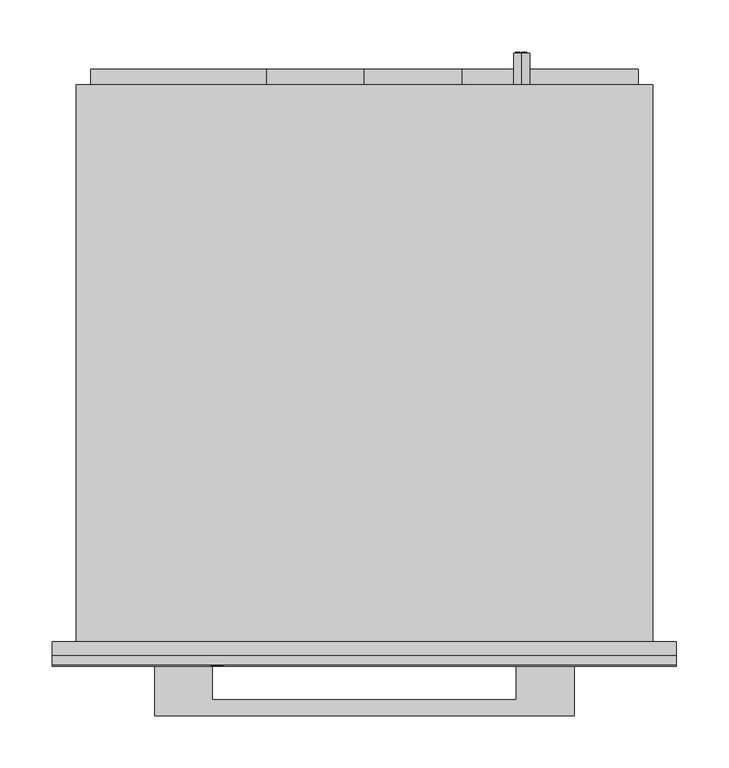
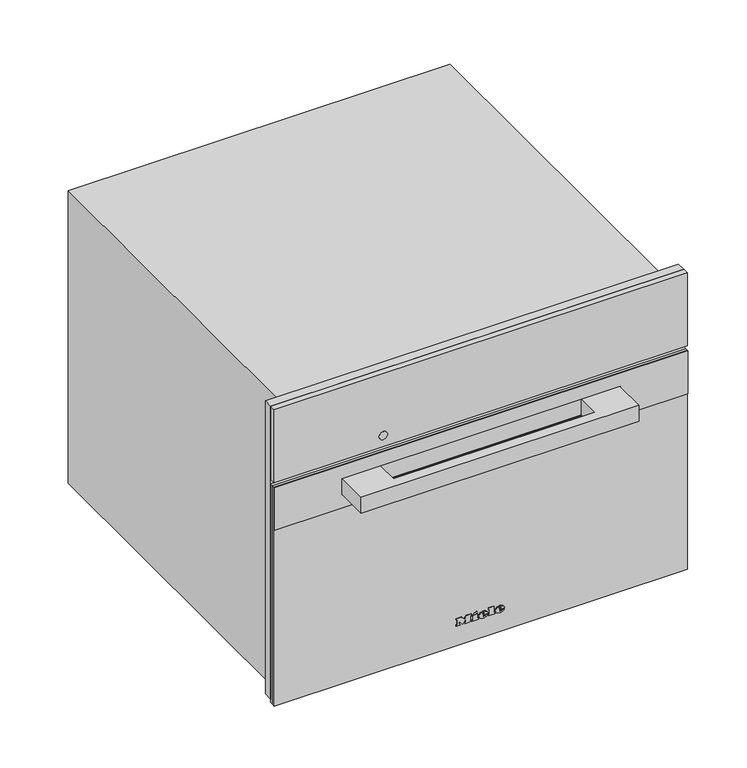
"""IFC4 building model written with IfcOpenShell, lengths in millimetres: proxy geometry, 11100450_F_DG7240_EDST-CLST : 23724040_F_11100450_DG7240_EDST-CLST."""

from ifc_helpers import new_model, si_unit, point, frame, frame_2d, origin, place, context, project, spatial, polyline, circle_curve, ellipse_curve, trimmed, segment, composite_curve, outline, extrude, faceted_brep, source, transform, mapped, element, save
from ifc_brep_helpers import plane_surface, cylinder_surface, revolved_surface, extruded_surface, advanced_brep


def specialty_equipment_9e288480(model_context):
    return source(origin(), model_context, "Body", "SolidModel", [
        extrude(outline(polyline([(455.0, 297.5), (455.0, -297.5), (9.0, -297.5), (9.0, -272.5), (344.0, -272.5), (344.0, 272.5), (9.0, 272.5), (9.0, 297.5), (455.0, 297.5)])), frame((0.0, -13.0, 0.0), z_axis=(0.0, 1.0, 0.0), x_axis=(0.0, 0.0, 1.0)), (0.0, 0.0, 1.0), 13.0),
        advanced_brep(
        [(150.0, 561.0, 410.5), (150.0, 561.0, 395.5), (144.4098301, 561.0, 398.0), (148.5, 561.0, 398.0), (148.5, 561.0, 408.0), (147.4955303, 561.0, 408.0), (147.4955303, 561.0, 399.0), (144.0315043, 561.0, 399.0), (144.0315043, 561.0, 398.4582978), (155.0, 561.0, 398.0), (155.0, 561.0, 408.0), (150.0, 561.0, 408.0), (150.0, 561.0, 407.0), (154.0, 561.0, 407.0), (154.0, 561.0, 403.5), (151.0, 561.0, 403.5), (151.0, 561.0, 402.5), (154.0, 561.0, 402.5), (154.0, 561.0, 399.0), (150.0, 561.0, 399.0), (150.0, 561.0, 398.0), (150.0, 531.0, 395.5), (150.0, 531.0, 410.5), (155.0, 562.0, 408.0), (155.0, 562.0, 398.0), (150.0, 562.0, 398.0), (150.0, 562.0, 399.0), (154.0, 562.0, 399.0), (154.0, 562.0, 402.5), (151.0, 562.0, 402.5), (151.0, 562.0, 403.5), (154.0, 562.0, 403.5), (154.0, 562.0, 407.0), (150.0, 562.0, 407.0), (150.0, 562.0, 408.0), (148.5, 562.0, 398.0), (144.0315043, 562.0, 398.0), (144.0315043, 562.0, 399.0), (147.4955303, 562.0, 399.0), (147.4955303, 562.0, 408.0), (148.5, 562.0, 408.0), (144.0315043, 561.0, 398.0)],
        [
            (0, 1, circle_curve(frame((150.0, 561.0, 403.0), z_axis=(0.0, 1.0, 0.0), x_axis=(0.0, 0.0, 1.0)), 7.5)),
            (1, 2, circle_curve(frame((150.0, 561.0, 403.0), z_axis=(0.0, 1.0, 0.0), x_axis=(0.0, 0.0, 1.0)), 7.5)),
            (2, 3),
            (3, 4),
            (4, 5),
            (5, 6),
            (6, 7),
            (7, 8),
            (8, 0, circle_curve(frame((150.0, 561.0, 403.0), z_axis=(0.0, 1.0, 0.0), x_axis=(0.0, 0.0, 1.0)), 7.5)),
            (9, 10),
            (10, 11),
            (11, 12),
            (12, 13),
            (13, 14),
            (14, 15),
            (15, 16),
            (16, 17),
            (17, 18),
            (18, 19),
            (19, 20),
            (20, 9),
            (21, 22, circle_curve(frame((150.0, 531.0, 403.0), z_axis=(0.0, -1.0, 0.0), x_axis=(0.0, 0.0, 1.0)), 7.5)),
            (22, 21, circle_curve(frame((150.0, 531.0, 403.0), z_axis=(0.0, -1.0, 0.0), x_axis=(0.0, 0.0, 1.0)), 7.5)),
            (0, 22),
            (21, 1),
            (8, 2, circle_curve(frame((150.0, 561.0, 403.0), z_axis=(0.0, -1.0, 0.0), x_axis=(0.0, 0.0, 1.0)), 7.5)),
            (23, 24),
            (24, 25),
            (25, 26),
            (26, 27),
            (27, 28),
            (28, 29),
            (29, 30),
            (30, 31),
            (31, 32),
            (32, 33),
            (33, 34),
            (34, 23),
            (35, 36),
            (36, 37),
            (37, 38),
            (38, 39),
            (39, 40),
            (40, 35),
            (8, 41),
            (41, 2),
            (23, 10),
            (9, 24),
            (20, 25),
            (19, 26),
            (18, 27),
            (17, 28),
            (16, 29),
            (15, 30),
            (14, 31),
            (13, 32),
            (12, 33),
            (11, 34),
            (35, 3),
            (41, 36),
            (7, 37),
            (6, 38),
            (5, 39),
            (4, 40),
        ],
        [
            plane_surface(frame((150.0, 561.0, 410.5), z_axis=(0.0, 1.0, 0.0), x_axis=(1.0, 0.0, 0.0))),
            plane_surface(frame((150.0, 531.0, 410.5), z_axis=(0.0, -1.0, 0.0), x_axis=(-1.0, 0.0, 0.0))),
            cylinder_surface(frame((150.0, 561.0, 403.0), z_axis=(0.0, -1.0, 0.0), x_axis=(0.0, 0.0, 1.0)), 7.5),
            plane_surface(frame((155.0, 562.0, 408.0), z_axis=(0.0, 1.0, 0.0), x_axis=(0.0, 0.0, -1.0))),
            plane_surface(frame((155.0, 561.0, 408.0), z_axis=(0.0, -1.0, 0.0), x_axis=(0.0, 0.0, 1.0))),
            plane_surface(frame((155.0, 562.0, 408.0), z_axis=(1.0, 0.0, 0.0), x_axis=(0.0, -1.0, 0.0))),
            plane_surface(frame((155.0, 562.0, 398.0), z_axis=(0.0, 0.0, -1.0), x_axis=(0.0, -1.0, 0.0))),
            plane_surface(frame((150.0, 562.0, 398.0), z_axis=(-1.0, 0.0, 0.0), x_axis=(0.0, -1.0, 0.0))),
            plane_surface(frame((150.0, 562.0, 399.0), z_axis=(0.0, 0.0, 1.0), x_axis=(0.0, -1.0, 0.0))),
            plane_surface(frame((154.0, 562.0, 399.0), z_axis=(-1.0, 0.0, 0.0), x_axis=(0.0, -1.0, 0.0))),
            plane_surface(frame((154.0, 562.0, 402.5), z_axis=(0.0, 0.0, -1.0), x_axis=(0.0, -1.0, 0.0))),
            plane_surface(frame((151.0, 562.0, 402.5), z_axis=(-1.0, 0.0, 0.0), x_axis=(0.0, -1.0, 0.0))),
            plane_surface(frame((151.0, 562.0, 403.5), z_axis=(0.0, 0.0, 1.0), x_axis=(0.0, -1.0, 0.0))),
            plane_surface(frame((154.0, 562.0, 403.5), z_axis=(-1.0, 0.0, 0.0), x_axis=(0.0, -1.0, 0.0))),
            plane_surface(frame((154.0, 562.0, 407.0), z_axis=(0.0, 0.0, -1.0), x_axis=(0.0, -1.0, 0.0))),
            plane_surface(frame((150.0, 562.0, 407.0), z_axis=(-1.0, 0.0, 0.0), x_axis=(0.0, -1.0, 0.0))),
            plane_surface(frame((150.0, 562.0, 408.0), z_axis=(0.0, 0.0, 1.0), x_axis=(0.0, -1.0, 0.0))),
            plane_surface(frame((148.5, 562.0, 398.0), z_axis=(0.0, 0.0, -1.0), x_axis=(0.0, -1.0, 0.0))),
            plane_surface(frame((144.0315043, 562.0, 398.0), z_axis=(-1.0, 0.0, 0.0), x_axis=(0.0, -1.0, 0.0))),
            plane_surface(frame((144.0315043, 562.0, 399.0), z_axis=(0.0, 0.0, 1.0), x_axis=(0.0, -1.0, 0.0))),
            plane_surface(frame((147.4955303, 562.0, 399.0), z_axis=(-1.0, 0.0, 0.0), x_axis=(0.0, -1.0, 0.0))),
            plane_surface(frame((147.4955303, 562.0, 408.0), z_axis=(0.0, 0.0, 1.0), x_axis=(0.0, -1.0, 0.0))),
            plane_surface(frame((148.5, 562.0, 408.0), z_axis=(1.0, 0.0, 0.0), x_axis=(0.0, -1.0, 0.0))),
        ],
        [
            (0, [[1, 2, 3, 4, 5, 6, 7, 8, 9], [10, 11, 12, 13, 14, 15, 16, 17, 18, 19, 20, 21]]),
            (1, [[22, 23]]),
            (2, [[-1, 24, -22, 25]]),
            (2, [[-23, -24, -9, 26, -2, -25]]),
            (3, [[27, 28, 29, 30, 31, 32, 33, 34, 35, 36, 37, 38]]),
            (3, [[39, 40, 41, 42, 43, 44]]),
            (4, [[45, 46, -26]]),
            (5, [[-27, 47, -10, 48]]),
            (6, [[-28, -48, -21, 49]]),
            (7, [[-29, -49, -20, 50]]),
            (8, [[-30, -50, -19, 51]]),
            (9, [[-31, -51, -18, 52]]),
            (10, [[-32, -52, -17, 53]]),
            (11, [[-33, -53, -16, 54]]),
            (12, [[-34, -54, -15, 55]]),
            (13, [[-35, -55, -14, 56]]),
            (14, [[-36, -56, -13, 57]]),
            (15, [[-37, -57, -12, 58]]),
            (16, [[-38, -58, -11, -47]]),
            (17, [[-39, 59, -3, -46, 60]]),
            (18, [[-40, -60, -45, -8, 61]]),
            (19, [[-41, -61, -7, 62]]),
            (20, [[-42, -62, -6, 63]]),
            (21, [[-43, -63, -5, 64]]),
            (22, [[-44, -64, -4, -59]]),
        ],
    ),
        extrude(outline(polyline([(299.0, -93.0), (258.0, -93.0), (258.0, -261.0), (111.0, -261.0), (111.0, -93.0), (70.0, -93.0), (70.0, 0.0), (70.0, 93.0), (111.0, 93.0), (111.0, 261.0), (258.0, 261.0), (258.0, 93.0), (299.0, 93.0), (299.0, 0.0), (299.0, -93.0)])), frame((0.0, 531.0, 0.0), z_axis=(0.0, 1.0, 0.0), x_axis=(0.0, 0.0, 1.0)), (0.0, 0.0, 1.0), 15.0),
        faceted_brep([(275.0, 531.0, 445.0), (275.0, 531.0, 0.0), (-275.0, 531.0, 0.0), (-275.0, 531.0, 445.0), (275.0, 0.0, 445.0), (-275.0, 0.0, 445.0), (-275.0, 0.0, 0.0), (275.0, 0.0, 0.0), (-272.5, 0.0, 344.0), (272.5, 0.0, 344.0), (272.5, 0.0, 8.0), (-272.5, 0.0, 8.0), (272.5, 34.0, 344.0), (-272.5, 34.0, 344.0), (-272.5, 34.0, 8.0), (272.5, 34.0, 8.0), (161.0, 34.0, 286.0), (161.0, 34.0, 58.0), (-220.0, 34.0, 58.0), (-220.0, 34.0, 286.0), (161.0, 444.0, 286.0), (-220.0, 444.0, 286.0), (-220.0, 444.0, 58.0), (161.0, 444.0, 58.0)], [[[0, 1, 2, 3]], [[4, 5, 6, 7], [8, 9, 10, 11]], [[0, 3, 5, 4]], [[3, 2, 6, 5]], [[2, 1, 7, 6]], [[1, 0, 4, 7]], [[12, 13, 14, 15], [16, 17, 18, 19]], [[13, 12, 9, 8]], [[14, 13, 8, 11]], [[15, 14, 11, 10]], [[12, 15, 10, 9]], [[20, 21, 22, 23]], [[20, 23, 17, 16]], [[23, 22, 18, 17]], [[22, 21, 19, 18]], [[21, 20, 16, 19]]]),
        advanced_brep(
        [(26.2998, -23.0, 36.7018), (26.2998, -23.0, 37.8532), (33.9264, -23.0, 37.8532), (20.6568, -23.0, 37.8532), (23.7918, -23.0, 34.0), (33.7326, -23.0, 36.7018), (30.2898, -23.0, 36.7018), (27.5766, -23.0, 35.425), (26.2998, -23.0, 39.3124), (26.2998, -23.0, 40.555), (28.2492, -23.0, 40.555), (28.2492, -23.0, 39.3124), (26.2998, -22.0, 36.7018), (27.5766, -22.0, 35.425), (30.2898, -22.0, 36.7018), (33.7326, -22.0, 36.7018), (23.7918, -22.0, 34.0), (20.6568, -22.0, 37.8532), (33.9264, -22.0, 37.8532), (26.2998, -22.0, 37.8532), (26.2998, -22.0, 39.3124), (28.2492, -22.0, 39.3124), (28.2492, -22.0, 40.555), (26.2998, -22.0, 40.555)],
        [
            (0, 1),
            (1, 2),
            (2, 3, ellipse_curve(frame((27.2916, -23.0, 37.8532), z_axis=(0.0, -1.0, 0.0), x_axis=(-1.0, 0.0, 0.0)), 6.6348, 5.4834)),
            (3, 4, circle_curve(frame((25.0686622, -23.0, 38.2408), z_axis=(0.0, -1.0, 0.0), x_axis=(0.0, 0.0, -1.0)), 4.4288556)),
            (4, 5, circle_curve(frame((27.1587808, -23.0, 41.2504), z_axis=(0.0, -1.0, 0.0), x_axis=(0.0, 0.0, -1.0)), 7.9940516)),
            (5, 6),
            (6, 7, circle_curve(frame((28.1338588, -23.0, 37.762), z_axis=(0.0, 1.0, 0.0), x_axis=(0.0, 0.0, -1.0)), 2.4025208)),
            (7, 0, circle_curve(frame((27.5766, -23.0, 36.7018), z_axis=(0.0, 1.0, 0.0), x_axis=(0.0, 0.0, -1.0)), 1.2768)),
            (8, 9),
            (9, 10, circle_curve(frame((27.2745, -23.0, 40.555), z_axis=(0.0, 1.0, 0.0), x_axis=(0.0, 0.0, -1.0)), 0.9747)),
            (10, 11),
            (11, 8),
            (12, 13, circle_curve(frame((27.5766, -22.0, 36.7018), z_axis=(0.0, -1.0, 0.0), x_axis=(0.0, 0.0, -1.0)), 1.2768)),
            (13, 14, circle_curve(frame((28.1338588, -22.0, 37.762), z_axis=(0.0, -1.0, 0.0), x_axis=(0.0, 0.0, -1.0)), 2.4025208)),
            (14, 15),
            (15, 16, circle_curve(frame((27.1587808, -22.0, 41.2504), z_axis=(0.0, 1.0, 0.0), x_axis=(0.0, 0.0, -1.0)), 7.9940516)),
            (16, 17, circle_curve(frame((25.0686622, -22.0, 38.2408), z_axis=(0.0, 1.0, 0.0), x_axis=(0.0, 0.0, -1.0)), 4.4288556)),
            (17, 18, ellipse_curve(frame((27.2916, -22.0, 37.8532), z_axis=(0.0, 1.0, 0.0), x_axis=(-1.0, 0.0, 0.0)), 6.6348, 5.4834)),
            (18, 19),
            (19, 12),
            (20, 21),
            (21, 22),
            (22, 23, circle_curve(frame((27.2745, -22.0, 40.555), z_axis=(0.0, -1.0, 0.0), x_axis=(0.0, 0.0, -1.0)), 0.9747)),
            (23, 20),
            (0, 12),
            (19, 1),
            (18, 2),
            (5, 15),
            (14, 6),
            (17, 3),
            (13, 7),
            (16, 4),
            (8, 20),
            (23, 9),
            (22, 10),
            (21, 11),
        ],
        [
            plane_surface(frame((26.2998, -23.0, 37.8532), z_axis=(0.0, -1.0, 0.0), x_axis=(0.0, 0.0, 1.0))),
            plane_surface(frame((26.2998, -22.0, 37.8532), z_axis=(0.0, 1.0, 0.0), x_axis=(0.0, 0.0, -1.0))),
            plane_surface(frame((26.2998, -23.0, 36.7018), z_axis=(1.0, 0.0, 0.0), x_axis=(0.0, 1.0, 0.0))),
            plane_surface(frame((26.2998, -23.0, 37.8532), z_axis=(0.0, 0.0, -1.0), x_axis=(0.0, 1.0, 0.0))),
            plane_surface(frame((33.7326, -23.0, 36.7018), z_axis=(0.0, 0.0, 1.0), x_axis=(0.0, 1.0, 0.0))),
            extruded_surface(trimmed(ellipse_curve(frame((27.2916, -21.0, 37.8532), z_axis=(0.0, -1.0, 0.0), x_axis=(-1.0, 0.0, 0.0)), 6.6348, 5.4834), [point((33.9264, -21.0, 37.8532))], [point((20.6568, -21.0, 37.8532))], True, "CARTESIAN"), (0.0, -1.0, 0.0), 1.0),
            revolved_surface(polyline([(28.1338588, -22.0, 35.3594792), (28.1338588, -23.0, 35.3594792)]), (28.1338588, -22.0, 37.762), (0.0, 1.0, 0.0)),
            revolved_surface(polyline([(27.5766, -22.0, 35.425), (27.5766, -23.0, 35.425)]), (27.5766, -22.0, 36.7018), (0.0, 1.0, 0.0)),
            cylinder_surface(frame((25.0686622, -22.0, 38.2408), z_axis=(0.0, -1.0, 0.0), x_axis=(0.0, 0.0, -1.0)), 4.4288556),
            cylinder_surface(frame((27.1587808, -22.0, 41.2504), z_axis=(0.0, -1.0, 0.0), x_axis=(0.0, 0.0, -1.0)), 7.9940516),
            plane_surface(frame((26.2998, -23.0, 39.3124), z_axis=(1.0, 0.0, 0.0), x_axis=(0.0, 1.0, 0.0))),
            revolved_surface(polyline([(27.2745, -22.0, 39.5803), (27.2745, -23.0, 39.5803)]), (27.2745, -22.0, 40.555), (0.0, 1.0, 0.0)),
            plane_surface(frame((28.2492, -23.0, 40.555), z_axis=(-1.0, 0.0, 0.0), x_axis=(0.0, 1.0, 0.0))),
            plane_surface(frame((28.2492, -23.0, 39.3124), z_axis=(0.0, 0.0, 1.0), x_axis=(0.0, 1.0, 0.0))),
        ],
        [
            (0, [[1, 2, 3, 4, 5, 6, 7, 8], [9, 10, 11, 12]]),
            (1, [[13, 14, 15, 16, 17, 18, 19, 20], [21, 22, 23, 24]]),
            (2, [[-1, 25, -20, 26]]),
            (3, [[-2, -26, -19, 27]]),
            (4, [[-6, 28, -15, 29]]),
            (5, [[-3, -27, -18, 30]]),
            (6, [[-7, -29, -14, 31]]),
            (7, [[-8, -31, -13, -25]]),
            (8, [[-4, -30, -17, 32]]),
            (9, [[-5, -32, -16, -28]]),
            (10, [[-9, 33, -24, 34]]),
            (11, [[-10, -34, -23, 35]]),
            (12, [[-11, -35, -22, 36]]),
            (13, [[-12, -36, -21, -33]]),
        ],
    ),
        advanced_brep(
        [(2.508, -23.0, 36.7018), (2.508, -23.0, 37.8532), (10.1346, -23.0, 37.8532), (-3.135, -23.0, 37.8532), (0.0, -23.0, 34.0), (9.9408, -23.0, 36.7018), (6.498, -23.0, 36.7018), (3.7848, -23.0, 35.425), (2.508, -23.0, 39.3124), (2.508, -23.0, 40.555), (4.4574, -23.0, 40.555), (4.4574, -23.0, 39.3124), (2.508, -22.0, 36.7018), (3.7848, -22.0, 35.425), (6.498, -22.0, 36.7018), (9.9408, -22.0, 36.7018), (0.0, -22.0, 34.0), (-3.135, -22.0, 37.8532), (10.1346, -22.0, 37.8532), (2.508, -22.0, 37.8532), (2.508, -22.0, 39.3124), (4.4574, -22.0, 39.3124), (4.4574, -22.0, 40.555), (2.508, -22.0, 40.555)],
        [
            (0, 1),
            (1, 2),
            (2, 3, ellipse_curve(frame((3.4998, -23.0, 37.8532), z_axis=(0.0, -1.0, 0.0), x_axis=(-1.0, 0.0, 0.0)), 6.6348, 5.4834)),
            (3, 4, circle_curve(frame((1.2768622, -23.0, 38.2408), z_axis=(0.0, -1.0, 0.0), x_axis=(0.0, 0.0, -1.0)), 4.4288556)),
            (4, 5, circle_curve(frame((3.3669808, -23.0, 41.2504), z_axis=(0.0, -1.0, 0.0), x_axis=(0.0, 0.0, -1.0)), 7.9940516)),
            (5, 6),
            (6, 7, circle_curve(frame((4.3420588, -23.0, 37.762), z_axis=(0.0, 1.0, 0.0), x_axis=(0.0, 0.0, -1.0)), 2.4025208)),
            (7, 0, circle_curve(frame((3.7848, -23.0, 36.7018), z_axis=(0.0, 1.0, 0.0), x_axis=(0.0, 0.0, -1.0)), 1.2768)),
            (8, 9),
            (9, 10, circle_curve(frame((3.4827, -23.0, 40.555), z_axis=(0.0, 1.0, 0.0), x_axis=(0.0, 0.0, -1.0)), 0.9747)),
            (10, 11),
            (11, 8),
            (12, 13, circle_curve(frame((3.7848, -22.0, 36.7018), z_axis=(0.0, -1.0, 0.0), x_axis=(0.0, 0.0, -1.0)), 1.2768)),
            (13, 14, circle_curve(frame((4.3420588, -22.0, 37.762), z_axis=(0.0, -1.0, 0.0), x_axis=(0.0, 0.0, -1.0)), 2.4025208)),
            (14, 15),
            (15, 16, circle_curve(frame((3.3669808, -22.0, 41.2504), z_axis=(0.0, 1.0, 0.0), x_axis=(0.0, 0.0, -1.0)), 7.9940516)),
            (16, 17, circle_curve(frame((1.2768622, -22.0, 38.2408), z_axis=(0.0, 1.0, 0.0), x_axis=(0.0, 0.0, -1.0)), 4.4288556)),
            (17, 18, ellipse_curve(frame((3.4998, -22.0, 37.8532), z_axis=(0.0, 1.0, 0.0), x_axis=(-1.0, 0.0, 0.0)), 6.6348, 5.4834)),
            (18, 19),
            (19, 12),
            (20, 21),
            (21, 22),
            (22, 23, circle_curve(frame((3.4827, -22.0, 40.555), z_axis=(0.0, -1.0, 0.0), x_axis=(0.0, 0.0, -1.0)), 0.9747)),
            (23, 20),
            (0, 12),
            (19, 1),
            (18, 2),
            (5, 15),
            (14, 6),
            (17, 3),
            (13, 7),
            (16, 4),
            (8, 20),
            (23, 9),
            (22, 10),
            (21, 11),
        ],
        [
            plane_surface(frame((2.508, -23.0, 37.8532), z_axis=(0.0, -1.0, 0.0), x_axis=(0.0, 0.0, 1.0))),
            plane_surface(frame((2.508, -22.0, 37.8532), z_axis=(0.0, 1.0, 0.0), x_axis=(0.0, 0.0, -1.0))),
            plane_surface(frame((2.508, -23.0, 36.7018), z_axis=(1.0, 0.0, 0.0), x_axis=(0.0, 1.0, 0.0))),
            plane_surface(frame((2.508, -23.0, 37.8532), z_axis=(0.0, 0.0, -1.0), x_axis=(0.0, 1.0, 0.0))),
            plane_surface(frame((9.9408, -23.0, 36.7018), z_axis=(0.0, 0.0, 1.0), x_axis=(0.0, 1.0, 0.0))),
            extruded_surface(trimmed(ellipse_curve(frame((3.4998, -21.0, 37.8532), z_axis=(0.0, -1.0, 0.0), x_axis=(-1.0, 0.0, 0.0)), 6.6348, 5.4834), [point((10.1346, -21.0, 37.8532))], [point((-3.135, -21.0, 37.8532))], True, "CARTESIAN"), (0.0, -1.0, 0.0), 1.0),
            revolved_surface(polyline([(4.3420588, -22.0, 35.3594792), (4.3420588, -23.0, 35.3594792)]), (4.3420588, -22.0, 37.762), (0.0, 1.0, 0.0)),
            revolved_surface(polyline([(3.7848, -22.0, 35.425), (3.7848, -23.0, 35.425)]), (3.7848, -22.0, 36.7018), (0.0, 1.0, 0.0)),
            cylinder_surface(frame((1.2768622, -22.0, 38.2408), z_axis=(0.0, -1.0, 0.0), x_axis=(0.0, 0.0, -1.0)), 4.4288556),
            cylinder_surface(frame((3.3669808, -22.0, 41.2504), z_axis=(0.0, -1.0, 0.0), x_axis=(0.0, 0.0, -1.0)), 7.9940516),
            plane_surface(frame((2.508, -23.0, 39.3124), z_axis=(1.0, 0.0, 0.0), x_axis=(0.0, 1.0, 0.0))),
            revolved_surface(polyline([(3.4827, -22.0, 39.5803), (3.4827, -23.0, 39.5803)]), (3.4827, -22.0, 40.555), (0.0, 1.0, 0.0)),
            plane_surface(frame((4.4574, -23.0, 40.555), z_axis=(-1.0, 0.0, 0.0), x_axis=(0.0, 1.0, 0.0))),
            plane_surface(frame((4.4574, -23.0, 39.3124), z_axis=(0.0, 0.0, 1.0), x_axis=(0.0, 1.0, 0.0))),
        ],
        [
            (0, [[1, 2, 3, 4, 5, 6, 7, 8], [9, 10, 11, 12]]),
            (1, [[13, 14, 15, 16, 17, 18, 19, 20], [21, 22, 23, 24]]),
            (2, [[-1, 25, -20, 26]]),
            (3, [[-2, -26, -19, 27]]),
            (4, [[-6, 28, -15, 29]]),
            (5, [[-3, -27, -18, 30]]),
            (6, [[-7, -29, -14, 31]]),
            (7, [[-8, -31, -13, -25]]),
            (8, [[-4, -30, -17, 32]]),
            (9, [[-5, -32, -16, -28]]),
            (10, [[-9, 33, -24, 34]]),
            (11, [[-10, -34, -23, 35]]),
            (12, [[-11, -35, -22, 36]]),
            (13, [[-12, -36, -21, -33]]),
        ],
    ),
        extrude(outline(polyline([(44.7274, -9.9522), (42.8806, -9.0858), (44.6818, -5.2212), (46.5286, -6.0762), (44.7274, -9.9522)])), frame((0.0, -23.0, 0.0), z_axis=(0.0, 1.0, 0.0), x_axis=(0.0, 0.0, 1.0)), (0.0, 0.0, 1.0), 1.0),
        extrude(outline(polyline([(42.6298, -12.768), (40.5892, -12.768), (40.5892, -11.4114), (35.9152, -11.4114), (35.9152, -12.768), (34.0, -12.768), (34.0, -3.7734), (35.9152, -3.7734), (35.9152, -5.0958), (42.6298, -5.0958), (42.6298, -12.768)])), frame((0.0, -23.0, 0.0), z_axis=(0.0, 1.0, 0.0), x_axis=(0.0, 0.0, 1.0)), (0.0, 0.0, 1.0), 1.0),
        extrude(outline(polyline([(43.5418, 10.773), (43.5418, 12.141), (35.9152, 12.141), (35.9152, 10.773), (34.0, 10.773), (34.0, 20.0184), (35.9152, 20.0184), (35.9152, 18.6162), (45.4, 18.6162), (45.4, 10.773), (43.5418, 10.773)])), frame((0.0, -23.0, 0.0), z_axis=(0.0, 1.0, 0.0), x_axis=(0.0, 0.0, 1.0)), (0.0, 0.0, 1.0), 1.0),
        extrude(outline(polyline([(43.5418, -35.4882), (43.5418, -34.1088), (35.9152, -34.1088), (35.9152, -35.4882), (34.0, -35.4882), (34.0, -30.4722), (35.9152, -30.4722), (35.9152, -31.8402), (40.7429247, -31.8402), (34.0, -26.7444), (40.9402223, -21.6258), (35.9152, -21.6258), (35.9152, -23.028), (34.0, -23.028), (34.0, -13.9308), (35.9152, -13.9308), (35.9152, -15.3786), (43.5418, -15.3786), (43.5418, -13.9308), (45.4, -13.9308), (45.4, -20.8734), (41.125, -24.2022), (45.4, -27.5424), (45.4, -35.4882), (43.5418, -35.4882)])), frame((0.0, -23.0, 0.0), z_axis=(0.0, 1.0, 0.0), x_axis=(0.0, 0.0, 1.0)), (0.0, 0.0, 1.0), 1.0),
        extrude(outline(polyline([(297.5, -22.0), (-297.5, -22.0), (-297.5, -13.0), (297.5, -13.0), (297.5, -22.0)])), frame((0.0, 0.0, 344.0), z_axis=(0.0, 0.0, 1.0), x_axis=(1.0, 0.0, 0.0)), (0.0, 0.0, 1.0), 111.0),
        extrude(outline(composite_curve([segment(trimmed(circle_curve(frame_2d((361.0, -140.5745637)), 6.0), [point((361.0, -146.5745637))], [point((361.0, -134.5745637))], False, "CARTESIAN"), True, "CONTINUOUS"), segment(trimmed(circle_curve(frame_2d((361.0, -140.5745637)), 6.0), [point((361.0, -134.5745637))], [point((361.0, -146.5745637))], False, "CARTESIAN"), True, "CONTINUOUS")], self_intersect=False)), frame((0.0, -22.5, 0.0), z_axis=(0.0, 1.0, 0.0), x_axis=(0.0, 0.0, 1.0)), (0.0, 0.0, 1.0), 1.0),
        extrude(outline(polyline([(337.0, 297.5), (337.0, -297.5), (272.0, -297.5), (272.0, 297.5), (337.0, 297.5)]), holes=[polyline([(317.0, -200.5), (317.0, 200.5), (292.0, 200.5), (292.0, -200.5), (317.0, -200.5)])]), frame((0.0, -23.3, 0.0), z_axis=(0.0, 1.0, 0.0), x_axis=(0.0, 0.0, 1.0)), (0.0, 0.0, 1.0), 1.3),
        extrude(outline(polyline([(-200.0, -70.3), (-200.0, -22.0), (-145.0, -22.0), (-145.0, -55.3), (145.0, -55.3), (145.0, -22.0), (200.0, -22.0), (200.0, -70.3), (-200.0, -70.3)])), frame((0.0, 0.0, 292.5), z_axis=(0.0, 0.0, 1.0), x_axis=(1.0, 0.0, 0.0)), (0.0, 0.0, 1.0), 24.0),
        extrude(outline(polyline([(-297.5, -18.0), (297.5, -18.0), (297.5, -22.0), (-297.5, -22.0), (-297.5, -18.0)])), frame((0.0, 0.0, 4.0), z_axis=(0.0, 0.0, 1.0), x_axis=(1.0, 0.0, 0.0)), (0.0, 0.0, 1.0), 333.0),
        extrude(outline(polyline([(297.5, -18.0), (-297.5, -18.0), (-297.5, -13.0), (297.5, -13.0), (297.5, -18.0)])), frame((0.0, 0.0, 4.0), z_axis=(0.0, 0.0, 1.0), x_axis=(1.0, 0.0, 0.0)), (0.0, 0.0, 1.0), 333.0),
    ])


if __name__ == "__main__":
    model = new_model("IFC4")
    model_context = context("Model", 3, world=origin())
    ifc_project = project(units=[si_unit("LENGTHUNIT", "METRE", prefix="MILLI")], contexts=[model_context])
    site = spatial("IfcSite", under=ifc_project)
    building = spatial("IfcBuilding", under=site)
    placement = place(None, origin())
    specialty_equipment_shape = specialty_equipment_9e288480(model_context)
    element("IfcBuildingElementProxy", 1, Name="11100450_F_DG7240_EDST-CLST : 23724040_F_11100450_DG7240_EDST-CLST", ObjectType="11100450_F_DG7240_EDST-CLST : 23724040_F_11100450_DG7240_EDST-CLST", at=placement, inside=building, context=model_context, shape_type="MappedRepresentation", body=[
        mapped(specialty_equipment_shape, transform((0.0, 0.0, 0.0), x_axis=(1.0, 0.0, 0.0), y_axis=(0.0, 1.0, 0.0), z_axis=(0.0, 0.0, 1.0))),
    ])
    save(model, "model.ifc")
